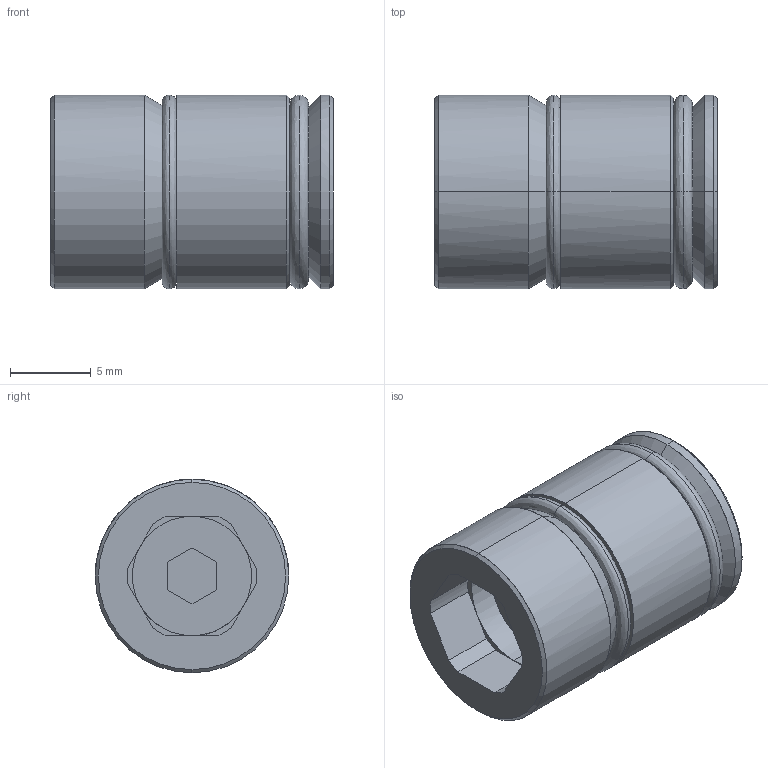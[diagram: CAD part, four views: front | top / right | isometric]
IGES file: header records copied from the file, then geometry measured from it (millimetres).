
Start section: START RECORD GO HERE.
Global section: file name: TRI-12.igs; native system: DASSAULT SYSTEMES CATIA V5 R20 - www.3ds.com; preprocessor: CATIA Version 5 Release 20 ; author: Utente; organization: NB04-ASUS; date: 20210222.201146; units: millimetre
Bounding box: 17.5 x 12 x 12 mm (x, y, z)
Surface area: 1154.3 mm2 (no closed solid volume)
Topology: 0 solids, 0 shells, 56 faces, 304 edges, 304 vertices
Faces by surface type: revolution 32, plane 24
